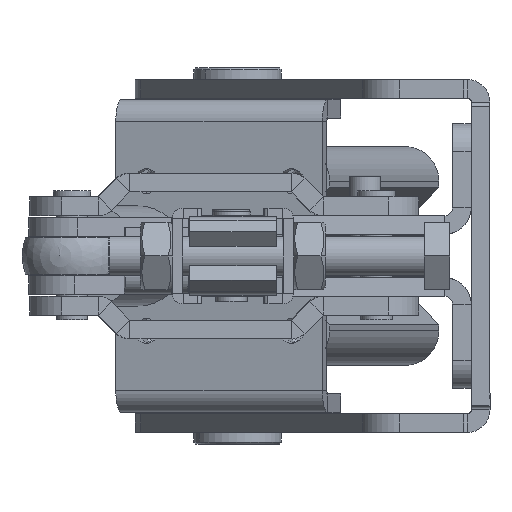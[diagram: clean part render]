
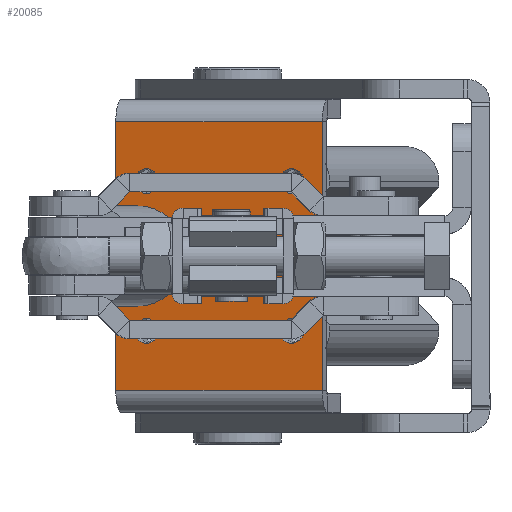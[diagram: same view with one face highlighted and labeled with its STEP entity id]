
A CAD part, left-side view. The second image highlights one B-rep face of the part: STEP entity #20085.
In plain terms, the highlighted planar face has unit normal (-0.971, 0.241, 0) as drawn and (0, -1, 0) by its records, which use the part's own axes.
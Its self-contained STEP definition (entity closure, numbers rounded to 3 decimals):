
#294 = DIRECTION ( 'NONE',  ( 0., 0., -1. ) ) ;
#342 = EDGE_CURVE ( 'NONE', #16181, #13612, #20321, .T. ) ;
#400 = LINE ( 'NONE', #19493, #4220 ) ;
#451 = DIRECTION ( 'NONE',  ( 0., 1., 0. ) ) ;
#473 = ORIENTED_EDGE ( 'NONE', *, *, #1371, .T. ) ;
#688 = DIRECTION ( 'NONE',  ( -1., 0., 0. ) ) ;
#1007 = CARTESIAN_POINT ( 'NONE',  ( 52.617, -4.75, -24. ) ) ;
#1142 = CARTESIAN_POINT ( 'NONE',  ( -19., -4.75, -15.85 ) ) ;
#1371 = EDGE_CURVE ( 'NONE', #16758, #6686, #20279, .T. ) ;
#1394 = EDGE_CURVE ( 'NONE', #13359, #2455, #2922, .T. ) ;
#1580 = CIRCLE ( 'NONE', #6362, 3.15 ) ;
#1914 = VERTEX_POINT ( 'NONE', #3928 ) ;
#1918 = CARTESIAN_POINT ( 'NONE',  ( 19., -4.75, 19. ) ) ;
#1983 = CARTESIAN_POINT ( 'NONE',  ( -34., -4.75, -27. ) ) ;
#2022 = CARTESIAN_POINT ( 'NONE',  ( -19., -4.75, 19. ) ) ;
#2056 = FACE_BOUND ( 'NONE', #7916, .T. ) ;
#2061 = DIRECTION ( 'NONE',  ( 0., 1., 0. ) ) ;
#2082 = VERTEX_POINT ( 'NONE', #1142 ) ;
#2247 = EDGE_LOOP ( 'NONE', ( #7272, #3390 ) ) ;
#2455 = VERTEX_POINT ( 'NONE', #16990 ) ;
#2601 = CARTESIAN_POINT ( 'NONE',  ( -19., -4.75, -19. ) ) ;
#2616 = DIRECTION ( 'NONE',  ( 0., 1., 0. ) ) ;
#2893 = EDGE_CURVE ( 'NONE', #20255, #16686, #12615, .T. ) ;
#2922 = CIRCLE ( 'NONE', #6787, 3.15 ) ;
#3008 = EDGE_CURVE ( 'NONE', #2082, #17328, #7217, .T. ) ;
#3040 = EDGE_CURVE ( 'NONE', #13612, #16181, #19191, .T. ) ;
#3244 = AXIS2_PLACEMENT_3D ( 'NONE', #2601, #14067, #4245 ) ;
#3360 = CARTESIAN_POINT ( 'NONE',  ( -34., -4.75, 27. ) ) ;
#3390 = ORIENTED_EDGE ( 'NONE', *, *, #342, .T. ) ;
#3450 = EDGE_CURVE ( 'NONE', #1914, #18050, #11564, .T. ) ;
#3492 = AXIS2_PLACEMENT_3D ( 'NONE', #4298, #15743, #5946 ) ;
#3544 = DIRECTION ( 'NONE',  ( 0., 0., 1. ) ) ;
#3660 = DIRECTION ( 'NONE',  ( 0., 0., -1. ) ) ;
#3698 = DIRECTION ( 'NONE',  ( 0., 0., 1. ) ) ;
#3787 = EDGE_CURVE ( 'NONE', #15580, #20255, #15132, .T. ) ;
#3838 = CIRCLE ( 'NONE', #6050, 3.15 ) ;
#3846 = ORIENTED_EDGE ( 'NONE', *, *, #3787, .F. ) ;
#3928 = CARTESIAN_POINT ( 'NONE',  ( -19., -4.75, 15.85 ) ) ;
#4220 = VECTOR ( 'NONE', #4801, 1000. ) ;
#4245 = DIRECTION ( 'NONE',  ( 0., 0., 1. ) ) ;
#4298 = CARTESIAN_POINT ( 'NONE',  ( 19., -4.75, 19. ) ) ;
#4801 = DIRECTION ( 'NONE',  ( 1., 0., 0. ) ) ;
#5082 = CARTESIAN_POINT ( 'NONE',  ( 19., -4.75, -15.85 ) ) ;
#5301 = EDGE_CURVE ( 'NONE', #18050, #1914, #3838, .T. ) ;
#5454 = EDGE_CURVE ( 'NONE', #19687, #16686, #9467, .T. ) ;
#5861 = PLANE ( 'NONE',  #8117 ) ;
#5946 = DIRECTION ( 'NONE',  ( 0., 0., 1. ) ) ;
#6022 = DIRECTION ( 'NONE',  ( 0., 1., 0. ) ) ;
#6050 = AXIS2_PLACEMENT_3D ( 'NONE', #12430, #2616, #14082 ) ;
#6220 = AXIS2_PLACEMENT_3D ( 'NONE', #11871, #2061, #3698 ) ;
#6362 = AXIS2_PLACEMENT_3D ( 'NONE', #10254, #451, #11900 ) ;
#6400 = FACE_OUTER_BOUND ( 'NONE', #11217, .T. ) ;
#6686 = VERTEX_POINT ( 'NONE', #12515 ) ;
#6787 = AXIS2_PLACEMENT_3D ( 'NONE', #15812, #6022, #17430 ) ;
#7217 = CIRCLE ( 'NONE', #3244, 3.15 ) ;
#7272 = ORIENTED_EDGE ( 'NONE', *, *, #3040, .T. ) ;
#7280 = CARTESIAN_POINT ( 'NONE',  ( 0., -4.75, -10. ) ) ;
#7302 = AXIS2_PLACEMENT_3D ( 'NONE', #19823, #10095, #294 ) ;
#7350 = ORIENTED_EDGE ( 'NONE', *, *, #1394, .T. ) ;
#7598 = DIRECTION ( 'NONE',  ( 0., 1., 0. ) ) ;
#7622 = AXIS2_PLACEMENT_3D ( 'NONE', #17378, #7598, #18999 ) ;
#7916 = EDGE_LOOP ( 'NONE', ( #7350, #17111 ) ) ;
#8065 = CARTESIAN_POINT ( 'NONE',  ( 34., -4.75, -27. ) ) ;
#8117 = AXIS2_PLACEMENT_3D ( 'NONE', #1007, #20601, #10871 ) ;
#8247 = VECTOR ( 'NONE', #688, 1000. ) ;
#9040 = EDGE_LOOP ( 'NONE', ( #18245, #473 ) ) ;
#9467 = LINE ( 'NONE', #12718, #19131 ) ;
#9918 = AXIS2_PLACEMENT_3D ( 'NONE', #1918, #13362, #3544 ) ;
#10095 = DIRECTION ( 'NONE',  ( 0., 1., 0. ) ) ;
#10254 = CARTESIAN_POINT ( 'NONE',  ( -19., -4.75, -19. ) ) ;
#10257 = FACE_BOUND ( 'NONE', #20635, .T. ) ;
#10352 = CARTESIAN_POINT ( 'NONE',  ( 19., -4.75, 15.85 ) ) ;
#10537 = CARTESIAN_POINT ( 'NONE',  ( 34., -4.75, 27. ) ) ;
#10871 = DIRECTION ( 'NONE',  ( 0., 0., 1. ) ) ;
#11217 = EDGE_LOOP ( 'NONE', ( #3846, #16133, #12330, #19308 ) ) ;
#11280 = FACE_BOUND ( 'NONE', #14449, .T. ) ;
#11310 = ORIENTED_EDGE ( 'NONE', *, *, #3450, .T. ) ;
#11564 = CIRCLE ( 'NONE', #11923, 3.15 ) ;
#11871 = CARTESIAN_POINT ( 'NONE',  ( 0., -4.75, 0. ) ) ;
#11900 = DIRECTION ( 'NONE',  ( 0., 0., 1. ) ) ;
#11923 = AXIS2_PLACEMENT_3D ( 'NONE', #2022, #13467, #3660 ) ;
#12136 = CARTESIAN_POINT ( 'NONE',  ( 52.617, -4.75, -27. ) ) ;
#12258 = CARTESIAN_POINT ( 'NONE',  ( 0., -4.75, 10. ) ) ;
#12330 = ORIENTED_EDGE ( 'NONE', *, *, #5454, .T. ) ;
#12430 = CARTESIAN_POINT ( 'NONE',  ( -19., -4.75, 19. ) ) ;
#12515 = CARTESIAN_POINT ( 'NONE',  ( 19., -4.75, 22.15 ) ) ;
#12615 = LINE ( 'NONE', #12136, #8247 ) ;
#12640 = DIRECTION ( 'NONE',  ( 0., 0., -1. ) ) ;
#12718 = CARTESIAN_POINT ( 'NONE',  ( -34., -4.75, -24. ) ) ;
#13255 = EDGE_CURVE ( 'NONE', #19687, #15580, #400, .T. ) ;
#13359 = VERTEX_POINT ( 'NONE', #5082 ) ;
#13362 = DIRECTION ( 'NONE',  ( 0., 1., 0. ) ) ;
#13467 = DIRECTION ( 'NONE',  ( 0., 1., 0. ) ) ;
#13612 = VERTEX_POINT ( 'NONE', #12258 ) ;
#14047 = EDGE_CURVE ( 'NONE', #2455, #13359, #16978, .T. ) ;
#14067 = DIRECTION ( 'NONE',  ( 0., 1., 0. ) ) ;
#14082 = DIRECTION ( 'NONE',  ( 0., 0., -1. ) ) ;
#14449 = EDGE_LOOP ( 'NONE', ( #18347, #18494 ) ) ;
#14604 = FACE_BOUND ( 'NONE', #9040, .T. ) ;
#14972 = CARTESIAN_POINT ( 'NONE',  ( -19., -4.75, -22.15 ) ) ;
#15132 = LINE ( 'NONE', #18975, #18914 ) ;
#15446 = EDGE_CURVE ( 'NONE', #17328, #2082, #1580, .T. ) ;
#15580 = VERTEX_POINT ( 'NONE', #10537 ) ;
#15743 = DIRECTION ( 'NONE',  ( 0., 1., 0. ) ) ;
#15812 = CARTESIAN_POINT ( 'NONE',  ( 19., -4.75, -19. ) ) ;
#16133 = ORIENTED_EDGE ( 'NONE', *, *, #13255, .F. ) ;
#16181 = VERTEX_POINT ( 'NONE', #7280 ) ;
#16686 = VERTEX_POINT ( 'NONE', #1983 ) ;
#16758 = VERTEX_POINT ( 'NONE', #10352 ) ;
#16862 = ORIENTED_EDGE ( 'NONE', *, *, #5301, .T. ) ;
#16978 = CIRCLE ( 'NONE', #7302, 3.15 ) ;
#16990 = CARTESIAN_POINT ( 'NONE',  ( 19., -4.75, -22.15 ) ) ;
#17111 = ORIENTED_EDGE ( 'NONE', *, *, #14047, .T. ) ;
#17328 = VERTEX_POINT ( 'NONE', #14972 ) ;
#17378 = CARTESIAN_POINT ( 'NONE',  ( 0., -4.75, 0. ) ) ;
#17430 = DIRECTION ( 'NONE',  ( 0., 0., -1. ) ) ;
#17608 = CIRCLE ( 'NONE', #9918, 3.15 ) ;
#18050 = VERTEX_POINT ( 'NONE', #18624 ) ;
#18245 = ORIENTED_EDGE ( 'NONE', *, *, #20405, .T. ) ;
#18347 = ORIENTED_EDGE ( 'NONE', *, *, #3008, .T. ) ;
#18494 = ORIENTED_EDGE ( 'NONE', *, *, #15446, .T. ) ;
#18624 = CARTESIAN_POINT ( 'NONE',  ( -19., -4.75, 22.15 ) ) ;
#18892 = FACE_BOUND ( 'NONE', #2247, .T. ) ;
#18914 = VECTOR ( 'NONE', #20682, 1000. ) ;
#18975 = CARTESIAN_POINT ( 'NONE',  ( 34., -4.75, -24. ) ) ;
#18999 = DIRECTION ( 'NONE',  ( 0., 0., 1. ) ) ;
#19131 = VECTOR ( 'NONE', #12640, 1000. ) ;
#19191 = CIRCLE ( 'NONE', #7622, 10. ) ;
#19308 = ORIENTED_EDGE ( 'NONE', *, *, #2893, .F. ) ;
#19493 = CARTESIAN_POINT ( 'NONE',  ( -52.617, -4.75, 27. ) ) ;
#19687 = VERTEX_POINT ( 'NONE', #3360 ) ;
#19823 = CARTESIAN_POINT ( 'NONE',  ( 19., -4.75, -19. ) ) ;
#20085 = ADVANCED_FACE ( 'NONE', ( #6400, #11280, #2056, #18892, #14604, #10257 ), #5861, .F. ) ;
#20255 = VERTEX_POINT ( 'NONE', #8065 ) ;
#20279 = CIRCLE ( 'NONE', #3492, 3.15 ) ;
#20321 = CIRCLE ( 'NONE', #6220, 10. ) ;
#20405 = EDGE_CURVE ( 'NONE', #6686, #16758, #17608, .T. ) ;
#20601 = DIRECTION ( 'NONE',  ( 0., 1., 0. ) ) ;
#20635 = EDGE_LOOP ( 'NONE', ( #16862, #11310 ) ) ;
#20682 = DIRECTION ( 'NONE',  ( 0., 0., -1. ) ) ;
